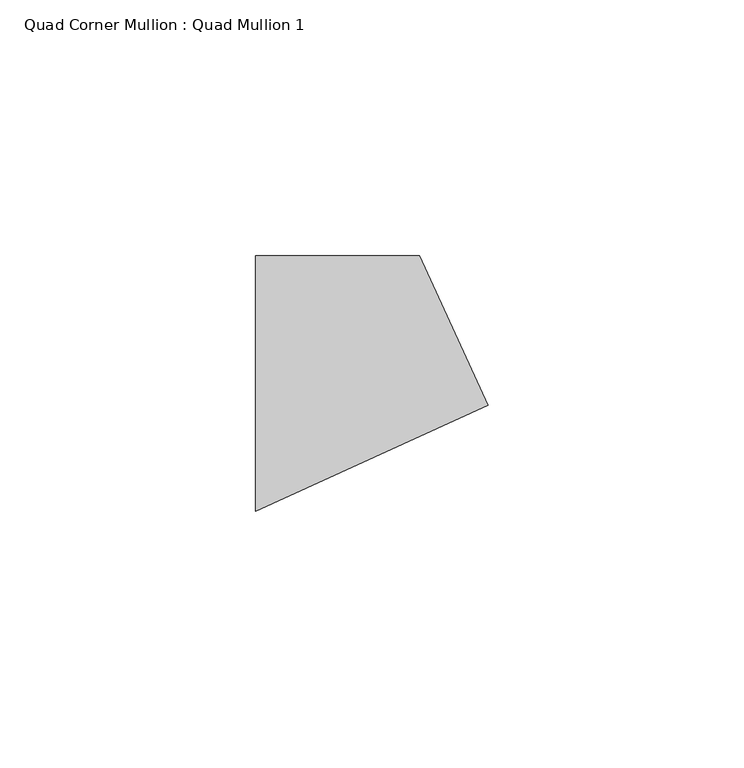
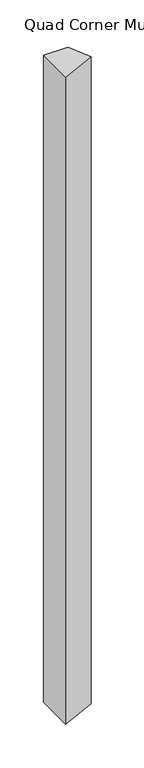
"""IFC4 building model written with IfcOpenShell, lengths in millimetres: member geometry, Quad Corner Mullion : Quad Mullion 1."""

from ifc_helpers import new_model, si_unit, frame, origin, place, context, project, spatial, polyline, outline, extrude, source, transform, mapped, element, save


def quad_corner_mullion_quad_mullion_1_083363cf(model_context):
    return source(origin(), model_context, "Body", "SweptSolid", [
        extrude(outline(polyline([(29.4125559, -4.1926582), (-16.0523154, -25.0), (-16.0523154, 25.0), (16.0523154, 25.0), (29.4125559, -4.1926582)])), frame((0.0, 0.0, -900.0), z_axis=(0.0, 0.0, 1.0), x_axis=(1.0, 0.0, 0.0)), (0.0, 0.0, 1.0), 900.0),
    ])


if __name__ == "__main__":
    model = new_model("IFC4")
    model_context = context("Model", 3, world=origin())
    ifc_project = project(units=[si_unit("LENGTHUNIT", "METRE", prefix="MILLI")], contexts=[model_context])
    site = spatial("IfcSite", under=ifc_project)
    building = spatial("IfcBuilding", under=site)
    placement = place(None, origin())
    quad_corner_mullion_quad_mullion_1_shape = quad_corner_mullion_quad_mullion_1_083363cf(model_context)
    element("IfcMember", 1, ObjectType="Quad Corner Mullion : Quad Mullion 1", at=placement, inside=building, context=model_context, shape_type="MappedRepresentation", body=[
        mapped(quad_corner_mullion_quad_mullion_1_shape, transform((0.0, 0.0, 0.0), x_axis=(1.0, 0.0, 0.0), y_axis=(0.0, 1.0, 0.0), z_axis=(0.0, 0.0, 1.0))),
    ])
    save(model, "model.ifc")
